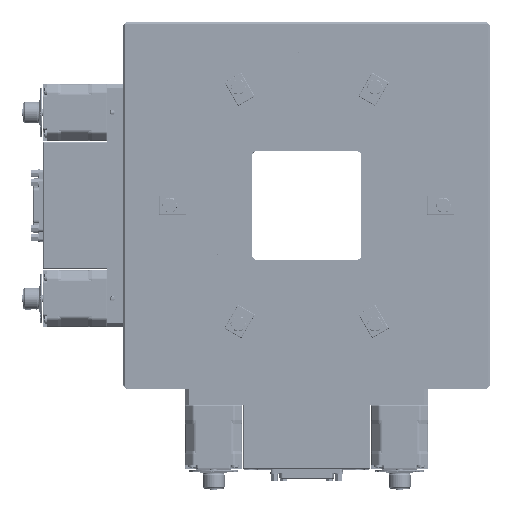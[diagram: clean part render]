
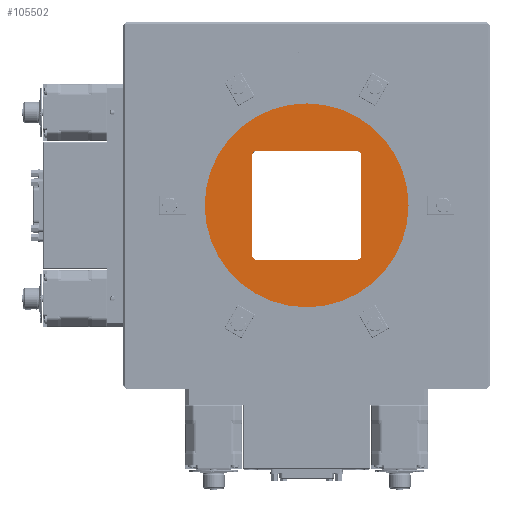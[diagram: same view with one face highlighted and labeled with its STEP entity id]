
A CAD part, top view. The second image highlights one B-rep face of the part: STEP entity #105502.
In plain terms, the highlighted planar face has unit normal (0, 0, 1) as drawn and (0, 0, -1) by its records, which use the part's own axes.
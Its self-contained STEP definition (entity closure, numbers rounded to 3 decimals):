
#100334=CARTESIAN_POINT('',(-208.5,134.0,-57.0));
#100335=VERTEX_POINT('',#100334);
#100336=CARTESIAN_POINT('',(-134.,134.0,-57.0));
#100337=DIRECTION('',(0.0,0.0,-1.0));
#100338=DIRECTION('',(1.0,0.0,0.0));
#100339=AXIS2_PLACEMENT_3D('',#100336,#100337,#100338);
#100340=CIRCLE('',#100339,74.5);
#100341=EDGE_CURVE('',#100335,#100335,#100340,.T.);
#105424=CARTESIAN_POINT('',(-134.,134.0,-57.0));
#105425=DIRECTION('',(0.0,0.0,1.0));
#105426=DIRECTION('',(1.0,0.0,0.0));
#105427=AXIS2_PLACEMENT_3D('',#105424,#105425,#105426);
#105428=PLANE('',#105427);
#105429=ORIENTED_EDGE('',*,*,#100341,.T.);
#105430=EDGE_LOOP('',(#105429));
#105431=FACE_OUTER_BOUND('',#105430,.T.);
#105432=CARTESIAN_POINT('',(-174.,170.0,-57.0));
#105433=VERTEX_POINT('',#105432);
#105434=CARTESIAN_POINT('',(-174.,98.,-57.0));
#105435=VERTEX_POINT('',#105434);
#105436=CARTESIAN_POINT('',(-174.,170.0,-57.0));
#105437=DIRECTION('',(0.0,-1.0,0.0));
#105438=VECTOR('',#105437,72.);
#105439=LINE('',#105436,#105438);
#105440=EDGE_CURVE('',#105433,#105435,#105439,.T.);
#105441=ORIENTED_EDGE('',*,*,#105440,.T.);
#105442=CARTESIAN_POINT('',(-170.,94.,-57.0));
#105443=VERTEX_POINT('',#105442);
#105444=CARTESIAN_POINT('',(-170.,98.,-57.0));
#105445=DIRECTION('',(0.0,0.0,-1.0));
#105446=DIRECTION('',(-0.707,-0.707,0.0));
#105447=AXIS2_PLACEMENT_3D('',#105444,#105445,#105446);
#105448=CIRCLE('',#105447,4.);
#105449=EDGE_CURVE('',#105443,#105435,#105448,.T.);
#105450=ORIENTED_EDGE('',*,*,#105449,.F.);
#105451=CARTESIAN_POINT('',(-98.,94.0,-57.0));
#105452=VERTEX_POINT('',#105451);
#105453=CARTESIAN_POINT('',(-170.,94.,-57.0));
#105454=DIRECTION('',(1.0,0.0,0.0));
#105455=VECTOR('',#105454,72.);
#105456=LINE('',#105453,#105455);
#105457=EDGE_CURVE('',#105443,#105452,#105456,.T.);
#105458=ORIENTED_EDGE('',*,*,#105457,.T.);
#105459=CARTESIAN_POINT('',(-94.,98.,-57.0));
#105460=VERTEX_POINT('',#105459);
#105461=CARTESIAN_POINT('',(-98.,98.,-57.0));
#105462=DIRECTION('',(0.0,0.0,-1.0));
#105463=DIRECTION('',(0.707,-0.707,0.0));
#105464=AXIS2_PLACEMENT_3D('',#105461,#105462,#105463);
#105465=CIRCLE('',#105464,4.0);
#105466=EDGE_CURVE('',#105460,#105452,#105465,.T.);
#105467=ORIENTED_EDGE('',*,*,#105466,.F.);
#105468=CARTESIAN_POINT('',(-94.,170.0,-57.0));
#105469=VERTEX_POINT('',#105468);
#105470=CARTESIAN_POINT('',(-94.,98.,-57.0));
#105471=DIRECTION('',(0.0,1.0,0.0));
#105472=VECTOR('',#105471,72.);
#105473=LINE('',#105470,#105472);
#105474=EDGE_CURVE('',#105460,#105469,#105473,.T.);
#105475=ORIENTED_EDGE('',*,*,#105474,.T.);
#105476=CARTESIAN_POINT('',(-98.,174.0,-57.0));
#105477=VERTEX_POINT('',#105476);
#105478=CARTESIAN_POINT('',(-98.,170.0,-57.0));
#105479=DIRECTION('',(0.0,0.0,-1.0));
#105480=DIRECTION('',(0.707,0.707,0.0));
#105481=AXIS2_PLACEMENT_3D('',#105478,#105479,#105480);
#105482=CIRCLE('',#105481,4.);
#105483=EDGE_CURVE('',#105477,#105469,#105482,.T.);
#105484=ORIENTED_EDGE('',*,*,#105483,.F.);
#105485=CARTESIAN_POINT('',(-170.,174.0,-57.0));
#105486=VERTEX_POINT('',#105485);
#105487=CARTESIAN_POINT('',(-98.,174.0,-57.0));
#105488=DIRECTION('',(-1.0,0.0,0.0));
#105489=VECTOR('',#105488,72.);
#105490=LINE('',#105487,#105489);
#105491=EDGE_CURVE('',#105477,#105486,#105490,.T.);
#105492=ORIENTED_EDGE('',*,*,#105491,.T.);
#105493=CARTESIAN_POINT('',(-170.,170.0,-57.0));
#105494=DIRECTION('',(0.0,0.0,-1.0));
#105495=DIRECTION('',(-0.707,0.707,0.0));
#105496=AXIS2_PLACEMENT_3D('',#105493,#105494,#105495);
#105497=CIRCLE('',#105496,4.);
#105498=EDGE_CURVE('',#105433,#105486,#105497,.T.);
#105499=ORIENTED_EDGE('',*,*,#105498,.F.);
#105500=EDGE_LOOP('',(#105441,#105450,#105458,#105467,#105475,#105484,#105492,#105499));
#105501=FACE_BOUND('',#105500,.T.);
#105502=ADVANCED_FACE('',(#105431,#105501),#105428,.F.);
